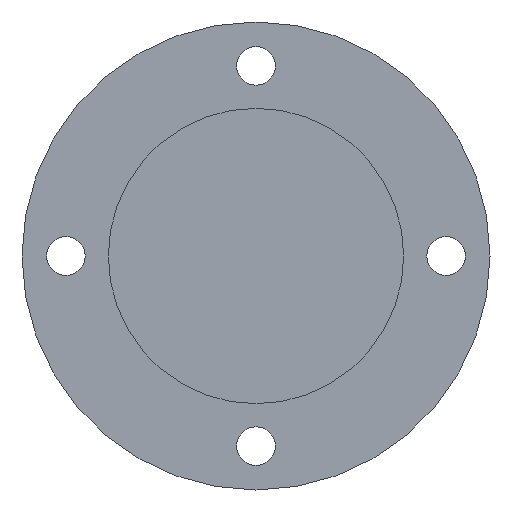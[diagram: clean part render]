
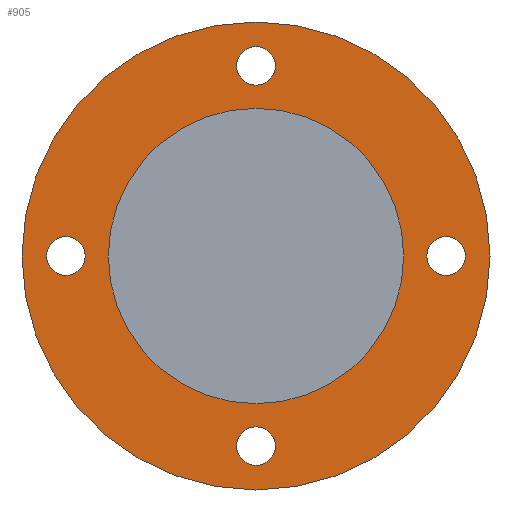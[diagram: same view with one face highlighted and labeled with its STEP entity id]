
A CAD part, front view. The second image highlights one B-rep face of the part: STEP entity #905.
In plain terms, the highlighted planar face has unit normal (0, -1, 0).
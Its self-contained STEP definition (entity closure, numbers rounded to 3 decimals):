
#42 = ORIENTED_EDGE ( 'NONE', *, *, #47, .T. ) ;
#43 = EDGE_CURVE ( 'NONE', #916, #917, #285, .T. ) ;
#44 = ORIENTED_EDGE ( 'NONE', *, *, #918, .T. ) ;
#45 = EDGE_LOOP ( 'NONE', ( #42, #48 ) ) ;
#46 = EDGE_LOOP ( 'NONE', ( #134, #148 ) ) ;
#47 = EDGE_CURVE ( 'NONE', #828, #829, #287, .T. ) ;
#48 = ORIENTED_EDGE ( 'NONE', *, *, #842, .T. ) ;
#77 = EDGE_CURVE ( 'NONE', #88, #89, #307, .T. ) ;
#88 = VERTEX_POINT ( 'NONE', #329 ) ;
#89 = VERTEX_POINT ( 'NONE', #331 ) ;
#134 = ORIENTED_EDGE ( 'NONE', *, *, #152, .T. ) ;
#137 = EDGE_LOOP ( 'NONE', ( #141, #144 ) ) ;
#138 = EDGE_CURVE ( 'NONE', #873, #890, #441, .T. ) ;
#139 = EDGE_LOOP ( 'NONE', ( #145, #147 ) ) ;
#141 = ORIENTED_EDGE ( 'NONE', *, *, #903, .F. ) ;
#144 = ORIENTED_EDGE ( 'NONE', *, *, #901, .F. ) ;
#145 = ORIENTED_EDGE ( 'NONE', *, *, #891, .T. ) ;
#147 = ORIENTED_EDGE ( 'NONE', *, *, #138, .T. ) ;
#148 = ORIENTED_EDGE ( 'NONE', *, *, #857, .T. ) ;
#152 = EDGE_CURVE ( 'NONE', #812, #846, #427, .T. ) ;
#272 = DIRECTION ( 'NONE',  ( 0., 0., 1. ) ) ;
#273 = DIRECTION ( 'NONE',  ( 0., 1., 0. ) ) ;
#274 = CARTESIAN_POINT ( 'NONE',  ( -32.5, 0., 0. ) ) ;
#275 = AXIS2_PLACEMENT_3D ( 'NONE', #274, #273, #272 ) ;
#278 = DIRECTION ( 'NONE',  ( 0., 0., 1. ) ) ;
#279 = DIRECTION ( 'NONE',  ( 0., 1., 0. ) ) ;
#280 = CARTESIAN_POINT ( 'NONE',  ( 0., 0., -32.5 ) ) ;
#281 = AXIS2_PLACEMENT_3D ( 'NONE', #280, #279, #278 ) ;
#285 = CIRCLE ( 'NONE', #281, 3.3 ) ;
#287 = CIRCLE ( 'NONE', #275, 3.3 ) ;
#292 = CARTESIAN_POINT ( 'NONE',  ( 32.5, 0., 0. ) ) ;
#307 = CIRCLE ( 'NONE', #346, 3.3 ) ;
#329 = CARTESIAN_POINT ( 'NONE',  ( 32.5, 0., -3.3 ) ) ;
#331 = CARTESIAN_POINT ( 'NONE',  ( 32.5, 0., 3.3 ) ) ;
#344 = DIRECTION ( 'NONE',  ( 0., 0., 1. ) ) ;
#345 = DIRECTION ( 'NONE',  ( 0., 1., 0. ) ) ;
#346 = AXIS2_PLACEMENT_3D ( 'NONE', #292, #345, #344 ) ;
#389 = CARTESIAN_POINT ( 'NONE',  ( 0., 0., 32.5 ) ) ;
#424 = DIRECTION ( 'NONE',  ( 0., 0., 1. ) ) ;
#425 = DIRECTION ( 'NONE',  ( 0., 1., 0. ) ) ;
#426 = AXIS2_PLACEMENT_3D ( 'NONE', #389, #425, #424 ) ;
#427 = CIRCLE ( 'NONE', #426, 3.3 ) ;
#429 = CARTESIAN_POINT ( 'NONE',  ( 32.5, 0., 0. ) ) ;
#435 = DIRECTION ( 'NONE',  ( 0., 0., 1. ) ) ;
#436 = DIRECTION ( 'NONE',  ( 1., 0., 0. ) ) ;
#437 = DIRECTION ( 'NONE',  ( 0., -1., 0. ) ) ;
#438 = CARTESIAN_POINT ( 'NONE',  ( 0., 0., 0. ) ) ;
#439 = AXIS2_PLACEMENT_3D ( 'NONE', #438, #437, #436 ) ;
#440 = DIRECTION ( 'NONE',  ( 0., 1., 0. ) ) ;
#441 = CIRCLE ( 'NONE', #439, 40. ) ;
#488 = CARTESIAN_POINT ( 'NONE',  ( 0., 0., 35.8 ) ) ;
#516 = CARTESIAN_POINT ( 'NONE',  ( -32.5, 0., 3.3 ) ) ;
#541 = AXIS2_PLACEMENT_3D ( 'NONE', #596, #630, #629 ) ;
#551 = CARTESIAN_POINT ( 'NONE',  ( -32.5, 0., 0. ) ) ;
#559 = CARTESIAN_POINT ( 'NONE',  ( -32.5, 0., -3.3 ) ) ;
#569 = CARTESIAN_POINT ( 'NONE',  ( 0., 0., 29.2 ) ) ;
#576 = CIRCLE ( 'NONE', #541, 3.3 ) ;
#592 = DIRECTION ( 'NONE',  ( 0., 0., 1. ) ) ;
#593 = DIRECTION ( 'NONE',  ( 0., 1., 0. ) ) ;
#594 = AXIS2_PLACEMENT_3D ( 'NONE', #551, #593, #592 ) ;
#596 = CARTESIAN_POINT ( 'NONE',  ( 0., 0., 32.5 ) ) ;
#599 = CIRCLE ( 'NONE', #594, 3.3 ) ;
#605 = CARTESIAN_POINT ( 'NONE',  ( -40., 0., 0. ) ) ;
#629 = DIRECTION ( 'NONE',  ( 0., 0., 1. ) ) ;
#630 = DIRECTION ( 'NONE',  ( 0., 1., 0. ) ) ;
#634 = AXIS2_PLACEMENT_3D ( 'NONE', #679, #678, #677 ) ;
#635 = CARTESIAN_POINT ( 'NONE',  ( 25.25, 0., 0. ) ) ;
#636 = CARTESIAN_POINT ( 'NONE',  ( 40., 0., 0. ) ) ;
#648 = CARTESIAN_POINT ( 'NONE',  ( -25.25, 0., 0. ) ) ;
#655 = CIRCLE ( 'NONE', #634, 40. ) ;
#661 = DIRECTION ( 'NONE',  ( 1., 0., 0. ) ) ;
#662 = DIRECTION ( 'NONE',  ( 0., -1., 0. ) ) ;
#663 = CARTESIAN_POINT ( 'NONE',  ( 0., 0., 0. ) ) ;
#664 = AXIS2_PLACEMENT_3D ( 'NONE', #663, #662, #661 ) ;
#665 = AXIS2_PLACEMENT_3D ( 'NONE', #429, #440, #435 ) ;
#666 = DIRECTION ( 'NONE',  ( 1., 0., 0. ) ) ;
#667 = DIRECTION ( 'NONE',  ( 0., -1., 0. ) ) ;
#668 = CARTESIAN_POINT ( 'NONE',  ( 0., 0., 0. ) ) ;
#669 = AXIS2_PLACEMENT_3D ( 'NONE', #668, #667, #666 ) ;
#675 = CIRCLE ( 'NONE', #665, 3.3 ) ;
#676 = CIRCLE ( 'NONE', #669, 25.25 ) ;
#677 = DIRECTION ( 'NONE',  ( 1., 0., 0. ) ) ;
#678 = DIRECTION ( 'NONE',  ( 0., -1., 0. ) ) ;
#679 = CARTESIAN_POINT ( 'NONE',  ( 0., 0., 0. ) ) ;
#680 = CIRCLE ( 'NONE', #664, 25.25 ) ;
#686 = CARTESIAN_POINT ( 'NONE',  ( 0., 0., -29.2 ) ) ;
#688 = CARTESIAN_POINT ( 'NONE',  ( 0., 0., -35.8 ) ) ;
#701 = DIRECTION ( 'NONE',  ( -1., 0., 0. ) ) ;
#702 = AXIS2_PLACEMENT_3D ( 'NONE', #712, #711, #701 ) ;
#703 = FACE_BOUND ( 'NONE', #137, .T. ) ;
#704 = FACE_BOUND ( 'NONE', #46, .T. ) ;
#706 = FACE_BOUND ( 'NONE', #45, .T. ) ;
#707 = PLANE ( 'NONE',  #702 ) ;
#710 = FACE_BOUND ( 'NONE', #844, .T. ) ;
#711 = DIRECTION ( 'NONE',  ( 0., 1., 0. ) ) ;
#712 = CARTESIAN_POINT ( 'NONE',  ( -25.25, 0., 0. ) ) ;
#713 = FACE_OUTER_BOUND ( 'NONE', #139, .T. ) ;
#714 = FACE_BOUND ( 'NONE', #902, .T. ) ;
#724 = DIRECTION ( 'NONE',  ( 0., 0., 1. ) ) ;
#725 = DIRECTION ( 'NONE',  ( 0., 1., 0. ) ) ;
#726 = CARTESIAN_POINT ( 'NONE',  ( 0., 0., -32.5 ) ) ;
#727 = AXIS2_PLACEMENT_3D ( 'NONE', #726, #725, #724 ) ;
#728 = CIRCLE ( 'NONE', #727, 3.3 ) ;
#812 = VERTEX_POINT ( 'NONE', #488 ) ;
#828 = VERTEX_POINT ( 'NONE', #516 ) ;
#829 = VERTEX_POINT ( 'NONE', #559 ) ;
#842 = EDGE_CURVE ( 'NONE', #829, #828, #599, .T. ) ;
#844 = EDGE_LOOP ( 'NONE', ( #907, #44 ) ) ;
#846 = VERTEX_POINT ( 'NONE', #569 ) ;
#857 = EDGE_CURVE ( 'NONE', #846, #812, #576, .T. ) ;
#870 = ORIENTED_EDGE ( 'NONE', *, *, #77, .T. ) ;
#873 = VERTEX_POINT ( 'NONE', #605 ) ;
#884 = VERTEX_POINT ( 'NONE', #648 ) ;
#886 = VERTEX_POINT ( 'NONE', #635 ) ;
#890 = VERTEX_POINT ( 'NONE', #636 ) ;
#891 = EDGE_CURVE ( 'NONE', #890, #873, #655, .T. ) ;
#897 = ORIENTED_EDGE ( 'NONE', *, *, #904, .T. ) ;
#901 = EDGE_CURVE ( 'NONE', #884, #886, #676, .T. ) ;
#902 = EDGE_LOOP ( 'NONE', ( #897, #870 ) ) ;
#903 = EDGE_CURVE ( 'NONE', #886, #884, #680, .T. ) ;
#904 = EDGE_CURVE ( 'NONE', #89, #88, #675, .T. ) ;
#905 = ADVANCED_FACE ( 'NONE', ( #714, #710, #706, #704, #703, #713 ), #707, .F. ) ;
#907 = ORIENTED_EDGE ( 'NONE', *, *, #43, .T. ) ;
#916 = VERTEX_POINT ( 'NONE', #686 ) ;
#917 = VERTEX_POINT ( 'NONE', #688 ) ;
#918 = EDGE_CURVE ( 'NONE', #917, #916, #728, .T. ) ;
